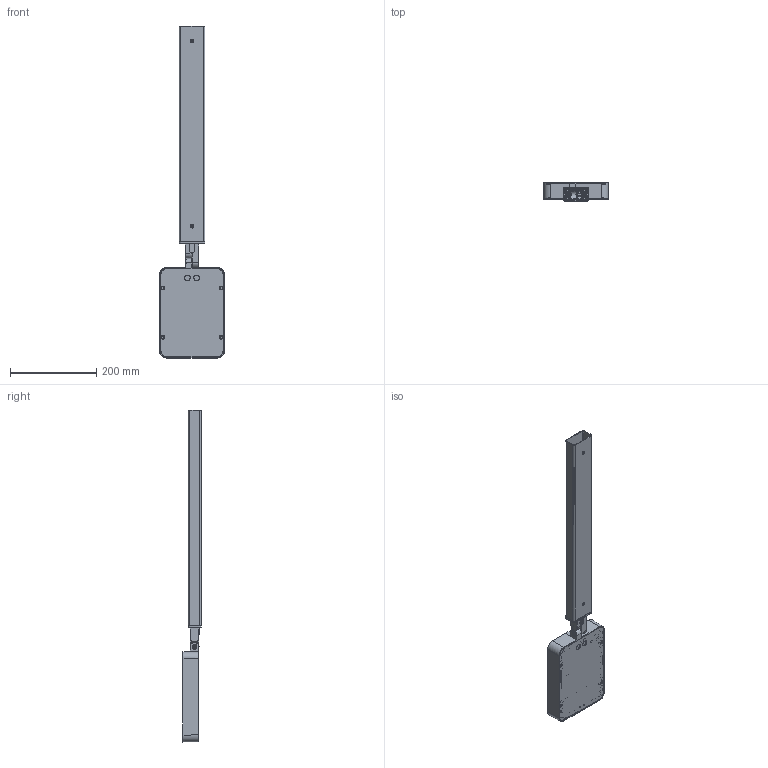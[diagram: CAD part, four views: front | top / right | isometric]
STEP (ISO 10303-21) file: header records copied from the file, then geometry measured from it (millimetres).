
FILE_DESCRIPTION((''),'2;1');
FILE_NAME('TAG210-COB-CITIZEN_SW0007','2025-07-29T09:19:24',('Piccioli'),(''),'CREO PARAMETRIC BY PTC INC, 2025010','CREO PARAMETRIC BY PTC INC, 2025010','');
FILE_SCHEMA(('CONFIG_CONTROL_DESIGN'));
Products named in the file (1): TAG210-COB-CITIZEN_SW0007
Bounding box: 150 x 42 x 770.5 mm (x, y, z)
Surface area: 389284.6 mm2 (no closed solid volume)
Topology: 0 solids, 68 shells, 650 faces, 2878 edges, 2268 vertices
Faces by surface type: plane 222, cylinder 170, cone 111, bspline 76, torus 71
Entity records: 45111 total; most frequent: CARTESIAN_POINT 23461, DIRECTION 4239, ORIENTED_EDGE 3874, EDGE_CURVE 2878, VERTEX_POINT 2268, AXIS2_PLACEMENT_3D 1464, VECTOR 1311, LINE 1311
